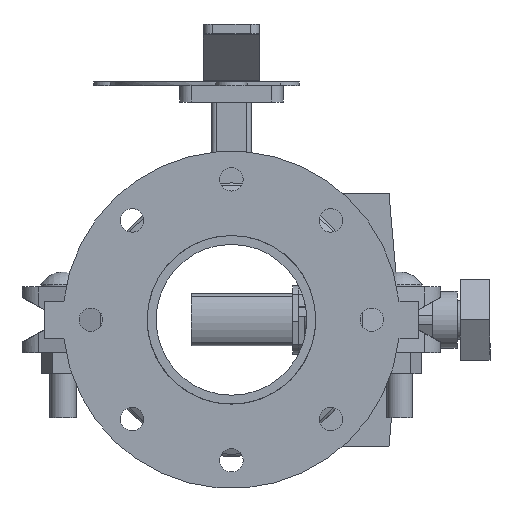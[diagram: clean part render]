
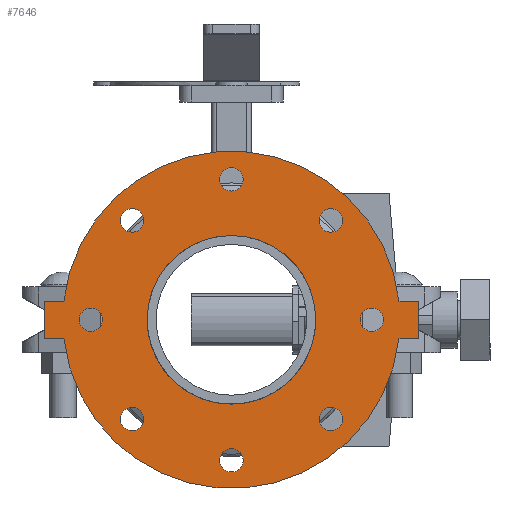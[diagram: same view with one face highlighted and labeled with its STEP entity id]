
A CAD part, front view. The second image highlights one B-rep face of the part: STEP entity #7646.
In plain terms, the highlighted planar face has unit normal (0, -1, 0) as drawn and (0, 0, -1) by its records, which use the part's own axes.
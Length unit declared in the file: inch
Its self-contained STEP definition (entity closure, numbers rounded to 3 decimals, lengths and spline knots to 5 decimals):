
#171=FACE_BOUND('',#948,.T.);
#172=FACE_BOUND('',#949,.T.);
#173=FACE_BOUND('',#950,.T.);
#174=FACE_BOUND('',#951,.T.);
#175=FACE_BOUND('',#952,.T.);
#176=FACE_BOUND('',#953,.T.);
#177=FACE_BOUND('',#954,.T.);
#178=FACE_BOUND('',#955,.T.);
#179=FACE_BOUND('',#956,.T.);
#272=PLANE('',#8285);
#524=FACE_OUTER_BOUND('',#947,.T.);
#947=EDGE_LOOP('',(#4912,#4913,#4914,#4915,#4916,#4917,#4918,#4919));
#948=EDGE_LOOP('',(#4920));
#949=EDGE_LOOP('',(#4921));
#950=EDGE_LOOP('',(#4922));
#951=EDGE_LOOP('',(#4923));
#952=EDGE_LOOP('',(#4924));
#953=EDGE_LOOP('',(#4925));
#954=EDGE_LOOP('',(#4926));
#955=EDGE_LOOP('',(#4927));
#956=EDGE_LOOP('',(#4928,#4929));
#1471=LINE('',#11613,#2049);
#1472=LINE('',#11615,#2050);
#1473=LINE('',#11617,#2051);
#1474=LINE('',#11621,#2052);
#1475=LINE('',#11623,#2053);
#1476=LINE('',#11624,#2054);
#2049=VECTOR('',#9230,0.3937);
#2050=VECTOR('',#9231,0.3937);
#2051=VECTOR('',#9232,0.3937);
#2052=VECTOR('',#9235,0.3937);
#2053=VECTOR('',#9236,0.3937);
#2054=VECTOR('',#9237,0.3937);
#2620=CIRCLE('',#8263,0.3125);
#2622=CIRCLE('',#8266,0.3125);
#2624=CIRCLE('',#8269,0.3125);
#2626=CIRCLE('',#8272,0.3125);
#2628=CIRCLE('',#8275,0.3125);
#2630=CIRCLE('',#8278,0.3125);
#2632=CIRCLE('',#8281,0.3125);
#2634=CIRCLE('',#8284,0.3125);
#2635=CIRCLE('',#8286,4.5);
#2636=CIRCLE('',#8287,4.5);
#2637=CIRCLE('',#8288,2.25);
#2638=CIRCLE('',#8289,2.25);
#3061=VERTEX_POINT('',#11563);
#3063=VERTEX_POINT('',#11569);
#3065=VERTEX_POINT('',#11575);
#3067=VERTEX_POINT('',#11581);
#3069=VERTEX_POINT('',#11587);
#3071=VERTEX_POINT('',#11593);
#3073=VERTEX_POINT('',#11599);
#3075=VERTEX_POINT('',#11605);
#3076=VERTEX_POINT('',#11609);
#3077=VERTEX_POINT('',#11610);
#3078=VERTEX_POINT('',#11612);
#3079=VERTEX_POINT('',#11614);
#3080=VERTEX_POINT('',#11616);
#3081=VERTEX_POINT('',#11618);
#3082=VERTEX_POINT('',#11620);
#3083=VERTEX_POINT('',#11622);
#3084=VERTEX_POINT('',#11625);
#3085=VERTEX_POINT('',#11626);
#3795=EDGE_CURVE('',#3061,#3061,#2620,.T.);
#3798=EDGE_CURVE('',#3063,#3063,#2622,.T.);
#3801=EDGE_CURVE('',#3065,#3065,#2624,.T.);
#3804=EDGE_CURVE('',#3067,#3067,#2626,.T.);
#3807=EDGE_CURVE('',#3069,#3069,#2628,.T.);
#3810=EDGE_CURVE('',#3071,#3071,#2630,.T.);
#3813=EDGE_CURVE('',#3073,#3073,#2632,.T.);
#3816=EDGE_CURVE('',#3075,#3075,#2634,.T.);
#3817=EDGE_CURVE('',#3076,#3077,#2635,.T.);
#3818=EDGE_CURVE('',#3077,#3078,#1471,.T.);
#3819=EDGE_CURVE('',#3078,#3079,#1472,.T.);
#3820=EDGE_CURVE('',#3079,#3080,#1473,.T.);
#3821=EDGE_CURVE('',#3080,#3081,#2636,.T.);
#3822=EDGE_CURVE('',#3081,#3082,#1474,.T.);
#3823=EDGE_CURVE('',#3082,#3083,#1475,.T.);
#3824=EDGE_CURVE('',#3083,#3076,#1476,.T.);
#3825=EDGE_CURVE('',#3084,#3085,#2637,.T.);
#3826=EDGE_CURVE('',#3085,#3084,#2638,.T.);
#4912=ORIENTED_EDGE('',*,*,#3817,.T.);
#4913=ORIENTED_EDGE('',*,*,#3818,.T.);
#4914=ORIENTED_EDGE('',*,*,#3819,.T.);
#4915=ORIENTED_EDGE('',*,*,#3820,.T.);
#4916=ORIENTED_EDGE('',*,*,#3821,.T.);
#4917=ORIENTED_EDGE('',*,*,#3822,.T.);
#4918=ORIENTED_EDGE('',*,*,#3823,.T.);
#4919=ORIENTED_EDGE('',*,*,#3824,.T.);
#4920=ORIENTED_EDGE('',*,*,#3795,.T.);
#4921=ORIENTED_EDGE('',*,*,#3798,.T.);
#4922=ORIENTED_EDGE('',*,*,#3801,.T.);
#4923=ORIENTED_EDGE('',*,*,#3804,.T.);
#4924=ORIENTED_EDGE('',*,*,#3807,.T.);
#4925=ORIENTED_EDGE('',*,*,#3810,.T.);
#4926=ORIENTED_EDGE('',*,*,#3813,.T.);
#4927=ORIENTED_EDGE('',*,*,#3816,.T.);
#4928=ORIENTED_EDGE('',*,*,#3825,.T.);
#4929=ORIENTED_EDGE('',*,*,#3826,.T.);
#7646=ADVANCED_FACE('',(#524,#171,#172,#173,#174,#175,#176,#177,#178,#179),
#272,.T.);
#8263=AXIS2_PLACEMENT_3D('',#11565,#9175,#9176);
#8266=AXIS2_PLACEMENT_3D('',#11571,#9182,#9183);
#8269=AXIS2_PLACEMENT_3D('',#11577,#9189,#9190);
#8272=AXIS2_PLACEMENT_3D('',#11583,#9196,#9197);
#8275=AXIS2_PLACEMENT_3D('',#11589,#9203,#9204);
#8278=AXIS2_PLACEMENT_3D('',#11595,#9210,#9211);
#8281=AXIS2_PLACEMENT_3D('',#11601,#9217,#9218);
#8284=AXIS2_PLACEMENT_3D('',#11607,#9224,#9225);
#8285=AXIS2_PLACEMENT_3D('',#11608,#9226,#9227);
#8286=AXIS2_PLACEMENT_3D('',#11611,#9228,#9229);
#8287=AXIS2_PLACEMENT_3D('',#11619,#9233,#9234);
#8288=AXIS2_PLACEMENT_3D('',#11627,#9238,#9239);
#8289=AXIS2_PLACEMENT_3D('',#11628,#9240,#9241);
#9175=DIRECTION('center_axis',(0.,0.,1.));
#9176=DIRECTION('ref_axis',(-0.707,0.707,0.));
#9182=DIRECTION('center_axis',(0.,0.,1.));
#9183=DIRECTION('ref_axis',(0.,1.,0.));
#9189=DIRECTION('center_axis',(0.,0.,1.));
#9190=DIRECTION('ref_axis',(0.707,0.707,0.));
#9196=DIRECTION('center_axis',(0.,0.,1.));
#9197=DIRECTION('ref_axis',(1.,0.,0.));
#9203=DIRECTION('center_axis',(0.,0.,1.));
#9204=DIRECTION('ref_axis',(0.707,-0.707,0.));
#9210=DIRECTION('center_axis',(0.,0.,1.));
#9211=DIRECTION('ref_axis',(0.,-1.,0.));
#9217=DIRECTION('center_axis',(0.,0.,1.));
#9218=DIRECTION('ref_axis',(-0.707,-0.707,0.));
#9224=DIRECTION('center_axis',(0.,0.,1.));
#9225=DIRECTION('ref_axis',(-1.,0.,0.));
#9226=DIRECTION('center_axis',(0.,0.,-1.));
#9227=DIRECTION('ref_axis',(-1.,0.,0.));
#9228=DIRECTION('center_axis',(0.,0.,-1.));
#9229=DIRECTION('ref_axis',(-1.,0.,0.));
#9230=DIRECTION('',(0.,1.,0.));
#9231=DIRECTION('',(1.,0.,0.));
#9232=DIRECTION('',(0.,-1.,0.));
#9233=DIRECTION('center_axis',(0.,0.,-1.));
#9234=DIRECTION('ref_axis',(-1.,0.,0.));
#9235=DIRECTION('',(0.,-1.,0.));
#9236=DIRECTION('',(-1.,0.,0.));
#9237=DIRECTION('',(0.,1.,0.));
#9238=DIRECTION('center_axis',(0.,0.,1.));
#9239=DIRECTION('ref_axis',(-1.,0.,0.));
#9240=DIRECTION('center_axis',(0.,0.,1.));
#9241=DIRECTION('ref_axis',(-1.,0.,0.));
#11563=CARTESIAN_POINT('',(-2.43068,2.43068,-0.5));
#11565=CARTESIAN_POINT('Origin',(-2.65165,2.65165,-0.5));
#11569=CARTESIAN_POINT('',(0.,3.4375,-0.5));
#11571=CARTESIAN_POINT('Origin',(0.,3.75,-0.5));
#11575=CARTESIAN_POINT('',(2.43068,2.43068,-0.5));
#11577=CARTESIAN_POINT('Origin',(2.65165,2.65165,-0.5));
#11581=CARTESIAN_POINT('',(3.4375,0.,-0.5));
#11583=CARTESIAN_POINT('Origin',(3.75,0.,-0.5));
#11587=CARTESIAN_POINT('',(2.43068,-2.43068,-0.5));
#11589=CARTESIAN_POINT('Origin',(2.65165,-2.65165,-0.5));
#11593=CARTESIAN_POINT('',(0.,-3.4375,-0.5));
#11595=CARTESIAN_POINT('Origin',(0.,-3.75,-0.5));
#11599=CARTESIAN_POINT('',(-2.43068,-2.43068,-0.5));
#11601=CARTESIAN_POINT('Origin',(-2.65165,-2.65165,-0.5));
#11605=CARTESIAN_POINT('',(-3.4375,0.,-0.5));
#11607=CARTESIAN_POINT('Origin',(-3.75,0.,-0.5));
#11608=CARTESIAN_POINT('Origin',(0.,0.,-0.5));
#11609=CARTESIAN_POINT('',(-0.5,-4.47214,-0.5));
#11610=CARTESIAN_POINT('',(-0.5,4.47214,-0.5));
#11611=CARTESIAN_POINT('Origin',(0.,0.,-0.5));
#11612=CARTESIAN_POINT('',(-0.5,5.,-0.5));
#11613=CARTESIAN_POINT('',(-0.5,-5.,-0.5));
#11614=CARTESIAN_POINT('',(0.5,5.,-0.5));
#11615=CARTESIAN_POINT('',(-0.5,5.,-0.5));
#11616=CARTESIAN_POINT('',(0.5,4.47214,-0.5));
#11617=CARTESIAN_POINT('',(0.5,5.,-0.5));
#11618=CARTESIAN_POINT('',(0.5,-4.47214,-0.5));
#11619=CARTESIAN_POINT('Origin',(0.,0.,-0.5));
#11620=CARTESIAN_POINT('',(0.5,-5.,-0.5));
#11621=CARTESIAN_POINT('',(0.5,5.,-0.5));
#11622=CARTESIAN_POINT('',(-0.5,-5.,-0.5));
#11623=CARTESIAN_POINT('',(0.5,-5.,-0.5));
#11624=CARTESIAN_POINT('',(-0.5,-5.,-0.5));
#11625=CARTESIAN_POINT('',(0.5,2.19374,-0.5));
#11626=CARTESIAN_POINT('',(2.25,0.,-0.5));
#11627=CARTESIAN_POINT('Origin',(0.,0.,-0.5));
#11628=CARTESIAN_POINT('Origin',(0.,0.,-0.5));
